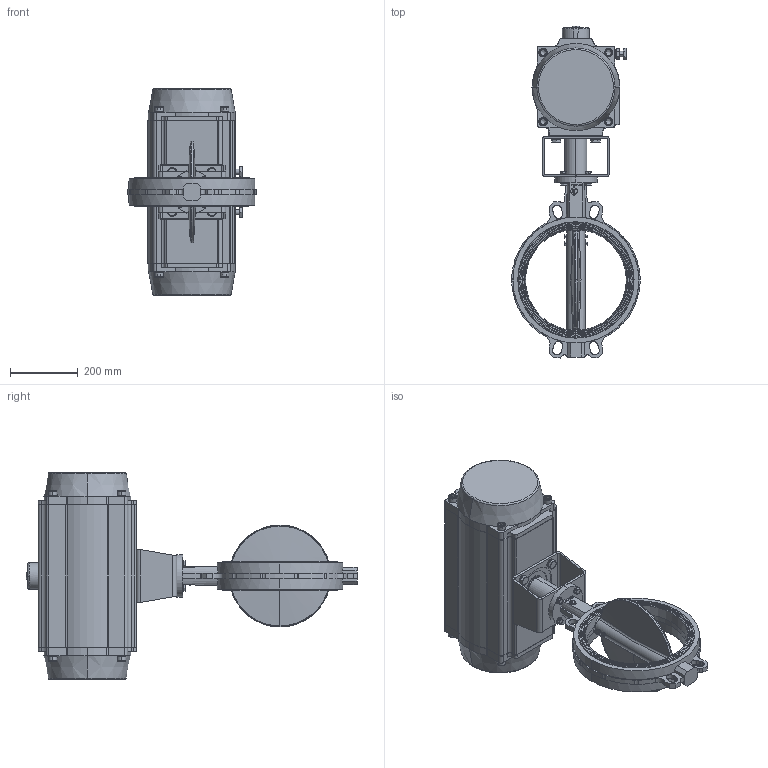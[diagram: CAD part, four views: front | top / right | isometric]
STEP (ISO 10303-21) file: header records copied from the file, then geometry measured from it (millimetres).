
FILE_DESCRIPTION (( 'STEP AP214' ), '1' );
FILE_NAME ('VPG444X-N07XX0300.step', '2022-06-07T06:35:38', ( '' ), ( '' ), 'SwSTEP 2.0', 'SolidWorks 2020', '' );
FILE_SCHEMA (( 'AUTOMOTIVE_DESIGN' ));
Length unit declared in the file: millimetre
Products named in the file (1): VPG444X-N07XX0300
Bounding box: 379.52 x 981.75 x 612 mm (x, y, z)
Surface area: 1533080.7 mm2 (no closed solid volume)
Topology: 0 solids, 82 shells, 776 faces, 4377 edges, 3665 vertices
Faces by surface type: plane 344, cylinder 241, cone 105, bspline 82, torus 4
Entity records: 70953 total; most frequent: CARTESIAN_POINT 30944, ORIENTED_EDGE 5972, DIRECTION 5498, EDGE_CURVE 4373, VERTEX_POINT 3665, VECTOR 2168, LINE 2168, AXIS2_PLACEMENT_3D 1665
